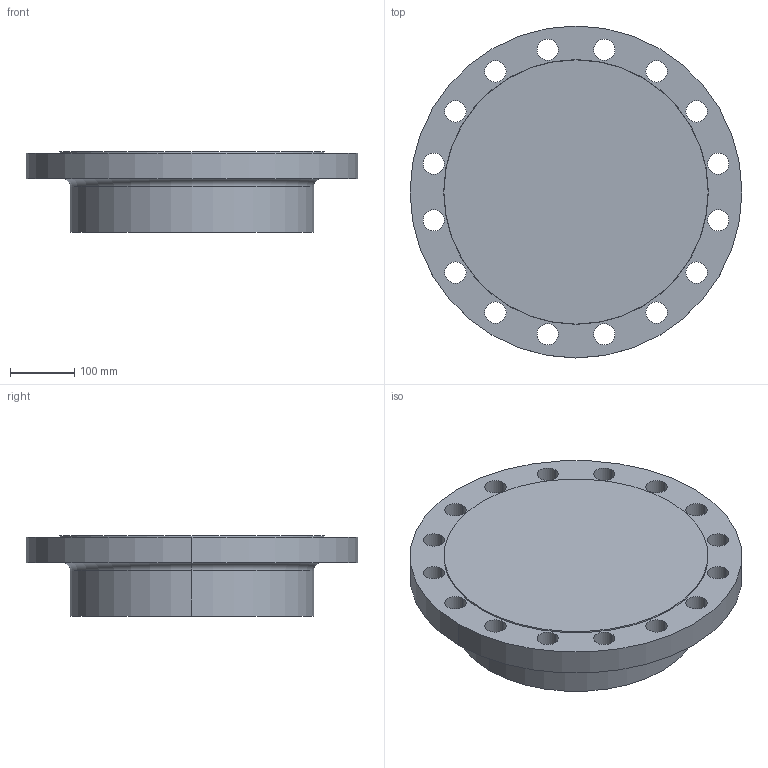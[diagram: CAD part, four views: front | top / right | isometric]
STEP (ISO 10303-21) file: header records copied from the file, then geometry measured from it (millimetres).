
FILE_DESCRIPTION (( 'STEP AP214' ), '1' );
FILE_NAME ('PN40 DN300 Type 21(i) - Type B Face.STEP', '2019-01-05T20:17:43', ( '' ), ( '' ), 'SwSTEP 2.0', 'SolidWorks 2019', '' );
FILE_SCHEMA (( 'AUTOMOTIVE_DESIGN' ));
Length unit declared in the file: millimetre
Products named in the file (1): PN40 DN300 Type 21(i) - Type B Face
Bounding box: 515 x 515 x 125 mm (x, y, z)
Volume: 17400950.4 mm3; surface area: 614987.7 mm2
Topology: 1 solids, 1 shells, 44 faces, 118 edges, 78 vertices
Faces by surface type: cylinder 36, plane 4, torus 2, cone 2
Entity records: 1524 total; most frequent: DIRECTION 288, CARTESIAN_POINT 241, ORIENTED_EDGE 236, AXIS2_PLACEMENT_3D 125, EDGE_CURVE 118, CIRCLE 80, VERTEX_POINT 78, EDGE_LOOP 78
